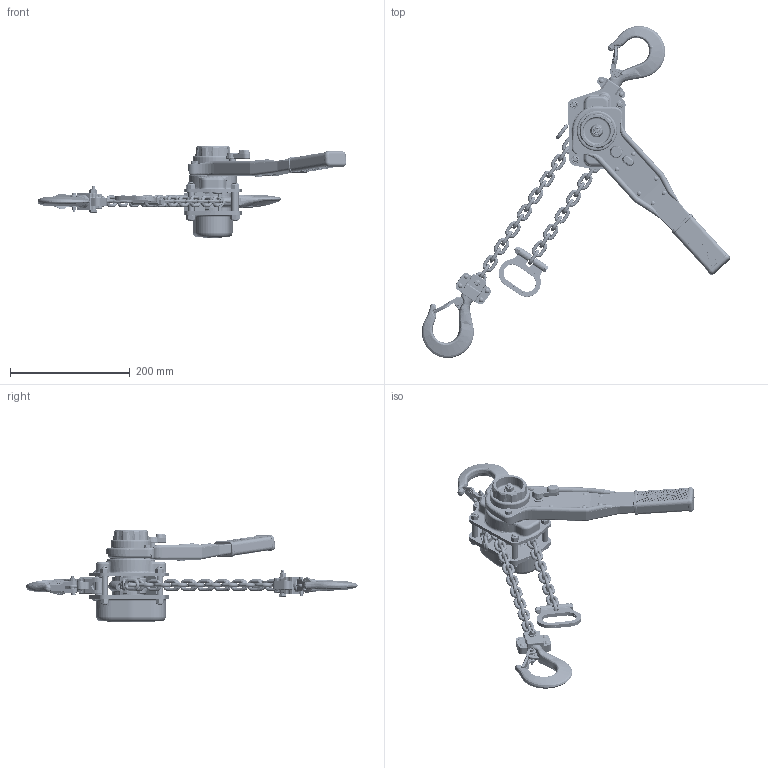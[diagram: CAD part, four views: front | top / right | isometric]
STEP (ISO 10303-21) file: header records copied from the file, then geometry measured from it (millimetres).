
FILE_DESCRIPTION (( 'STEP AP214' ), '1' );
FILE_NAME ('626忒啣綵竄.STEP', '2023-02-17T08:35:07', ( '' ), ( '' ), 'SwSTEP 2.0', 'SolidWorks 2018', '' );
FILE_SCHEMA (( 'AUTOMOTIVE_DESIGN' ));
Length unit declared in the file: millimetre
Products named in the file (63): 8轴向挡圈; 盓備裝; 裔啣; ｳ､ﾖ眛眞弡ﾀﾋﾉﾂﾝﾄｸ; れ笭蟈謫; 階裝粟銅1; M6  12鞠褒蹟佪; 憔蛈种; 粟銅菜え; 裂像; 結蟈欶; 626-0.75T囀啣盓翐; 憔謫; 1T铸造卡索板（20170601）; 裂像穩隊; M4囀鞠褒蹟隊; 俋啣盓翐; 626-0.75 迕羲粟銅; 裂种; 奻像粣; 秶雄ん釱; 轴向挡圈26; 游杶; 忒梟菜え; 憔謫欶; M4攝韓滅侂蹟譫; 煦蟈啣; 626-0.75T 遙砃憔謫; 憔蛈; 藻笠え; 626-0.75T 忒梟囀啣; 豪瑩喘謫; 奻像殤; M6攝韓滅侂蹟譫; え喘謫; 淕极粣創; 階裝; 626忒啣綵竄; 霧齪23; 狟像殤え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
Assembly tree (109 placements, depth 2):
  626忒啣綵竄
    酘Х啣
    衵Х啣
    憔蛈种  x2
    煦蟈啣
    結蟈欶
    れ笭蟈謫
    淕极粣創  x2
    試杶  x4
    傻粣  x2
    豪瑩喘謫
    え喘謫  x2
    盓備裝  x4
    俋Х啣
    裔啣
    裂种
    奻像粣
    聾蛌粟銅  x2
    憔謫
    藻笠え  x2
    憔謫欶
    奻像殤  x2
    蟈沭
    秶雄ん釱
    M6攝韓滅侂蹟譫  x2
    粟銅菜え
    裂像穩隊  x6
    轴向挡圈26
    M4囀鞠褒蹟隊  x2
    双圈弹簧  x2
    M4攝韓滅侂蹟譫  x2
    Х啣穩隊  x2
    憔蛈  x2
    8轴向挡圈  x2
    M6  12鞠褒蹟佪  x3
    俋啣盓翐  x2
    忒梟菜え  x3
    遙砃畢辦
    遙砃憔蛈
    畢辦粣
    霧齪穩隊3  5  x6
    粟銅釱
    階裝
    階裝粟銅1
    ｳ､ﾖ眛眞弡ﾀﾋﾉﾂﾝﾄｸ  x9
    0.75喳揤忒嶺帣遠
    帣遠种 
    626-0.75T 酗粣
    626-0.75T 遙砃憔謫
    626-0.75 迕羲粟銅
    626-0.75T忒梟俋啣
    626-0.75T 忒梟囀啣
    游杶  x2
    626-0.75T 芧謫
    626-0.75T囀啣盓翐
    626-0.75 忒謫
    霧齪23
    OZ忒梟杶
    忒梟杶蹟譫
    忒梟杶蹟隊
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Bounding box: 515.17 x 554.57 x 153.5 mm (x, y, z)
Volume: 879916.8 mm3; surface area: 569318.7 mm2
Topology: 220 solids, 220 shells, 7695 faces, 19363 edges, 12307 vertices
Faces by surface type: plane 3241, cylinder 2512, bspline 898, torus 627, cone 399, sphere 18
Entity records: 286068 total; most frequent: CARTESIAN_POINT 115116, ORIENTED_EDGE 31760, DIRECTION 30187, EDGE_CURVE 15880, AXIS2_PLACEMENT_3D 10880, VERTEX_POINT 10161, VECTOR 8427, LINE 8427
